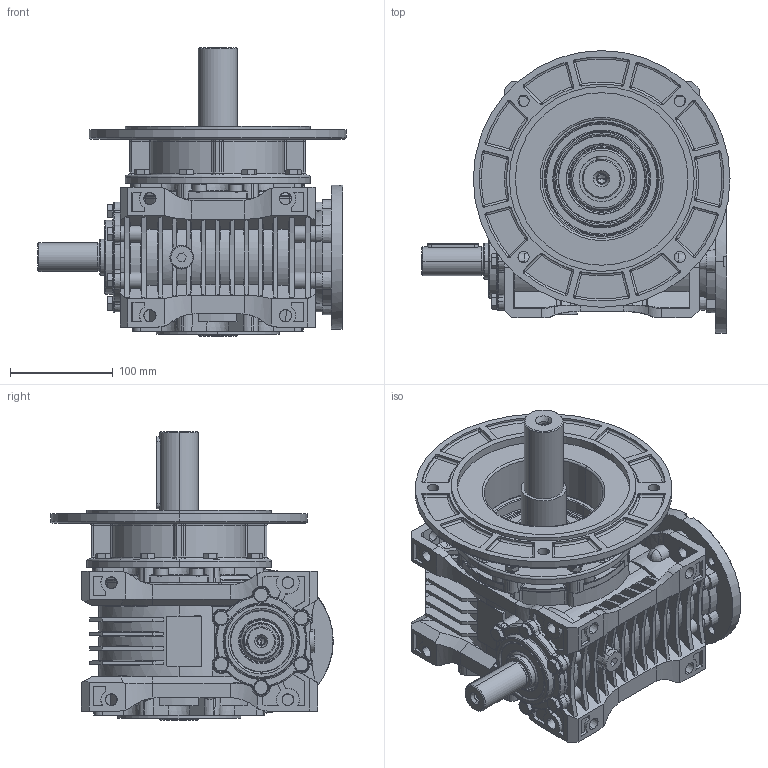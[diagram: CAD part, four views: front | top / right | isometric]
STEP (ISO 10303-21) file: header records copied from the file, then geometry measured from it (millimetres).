
FILE_DESCRIPTION (( 'STEP AP203' ), '1' );
FILE_NAME ('MR-80_140-24-WBS-K250_2-WJ_2-3D.STEP', '2024-05-07T08:47:30', ( '' ), ( '' ), 'SwSTEP 2.0', 'SolidWorks 2022', '' );
FILE_SCHEMA (( 'CONFIG_CONTROL_DESIGN' ));
Length unit declared in the file: millimetre
Products named in the file (1): MR-80_140-24-WBS-K250_2-WJ_2-3D
Bounding box: 300 x 275.22 x 281 mm (x, y, z)
Volume: 5013259.6 mm3; surface area: 632826.9 mm2
Topology: 1 solids, 65 shells, 3822 faces, 9774 edges, 6075 vertices
Faces by surface type: plane 1387, cone 1049, cylinder 673, torus 347, bspline 278, sphere 88
Entity records: 127402 total; most frequent: CARTESIAN_POINT 38107, ORIENTED_EDGE 19190, DIRECTION 18340, EDGE_CURVE 9595, AXIS2_PLACEMENT_3D 7193, VERTEX_POINT 6051, EDGE_LOOP 4084, VECTOR 3954
